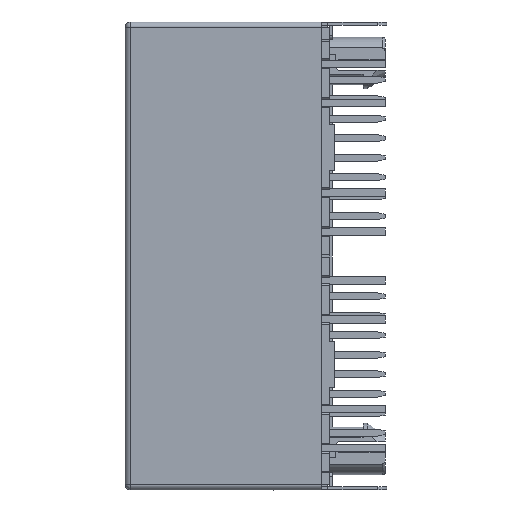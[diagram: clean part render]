
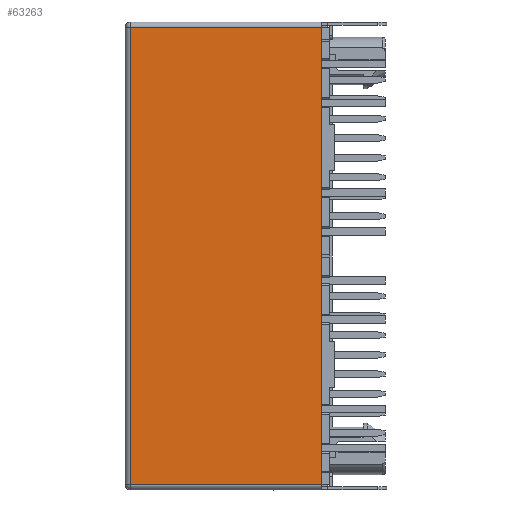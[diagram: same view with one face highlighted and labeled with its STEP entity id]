
A CAD part, left-side view. The second image highlights one B-rep face of the part: STEP entity #63263.
In plain terms, the highlighted planar face has unit normal (-1, 0, 0).
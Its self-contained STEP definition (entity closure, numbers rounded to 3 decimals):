
#1760=DIRECTION('',(0.,1.,0.));
#1761=VECTOR('',#1760,12.45);
#1762=CARTESIAN_POINT('',(-11.75,-1.2,7.845));
#1763=LINE('',#1762,#1761);
#1782=DIRECTION('',(0.,0.,1.));
#1783=VECTOR('',#1782,29.8);
#1784=CARTESIAN_POINT('',(-11.75,-1.2,-21.955));
#1785=LINE('',#1784,#1783);
#2067=DIRECTION('',(0.,-1.,0.));
#2068=VECTOR('',#2067,12.45);
#2069=CARTESIAN_POINT('',(-11.75,11.25,-21.955));
#2070=LINE('',#2069,#2068);
#2090=DIRECTION('',(0.,0.,-1.));
#2091=VECTOR('',#2090,29.8);
#2092=CARTESIAN_POINT('',(-11.75,11.25,7.845));
#2093=LINE('',#2092,#2091);
#51853=CARTESIAN_POINT('',(-11.75,-1.2,7.845));
#51854=VERTEX_POINT('',#51853);
#51855=CARTESIAN_POINT('',(-11.75,11.25,7.845));
#51856=VERTEX_POINT('',#51855);
#51869=CARTESIAN_POINT('',(-11.75,-1.2,-21.955));
#51870=VERTEX_POINT('',#51869);
#51970=CARTESIAN_POINT('',(-11.75,11.25,-21.955));
#51971=VERTEX_POINT('',#51970);
#63252=CARTESIAN_POINT('',(-11.75,5.025,-7.055));
#63253=DIRECTION('',(1.,0.,0.));
#63254=DIRECTION('',(0.,0.,-1.));
#63255=AXIS2_PLACEMENT_3D('',#63252,#63253,#63254);
#63256=PLANE('',#63255);
#63257=ORIENTED_EDGE('',*,*,#62745,.F.);
#63258=ORIENTED_EDGE('',*,*,#62774,.F.);
#63259=ORIENTED_EDGE('',*,*,#63184,.F.);
#63260=ORIENTED_EDGE('',*,*,#63209,.F.);
#63261=EDGE_LOOP('',(#63257,#63258,#63259,#63260));
#63262=FACE_OUTER_BOUND('',#63261,.F.);
#63263=ADVANCED_FACE('',(#63262),#63256,.F.);
#62745=EDGE_CURVE('',#51854,#51856,#1763,.T.);
#62774=EDGE_CURVE('',#51870,#51854,#1785,.T.);
#63184=EDGE_CURVE('',#51971,#51870,#2070,.T.);
#63209=EDGE_CURVE('',#51856,#51971,#2093,.T.);
